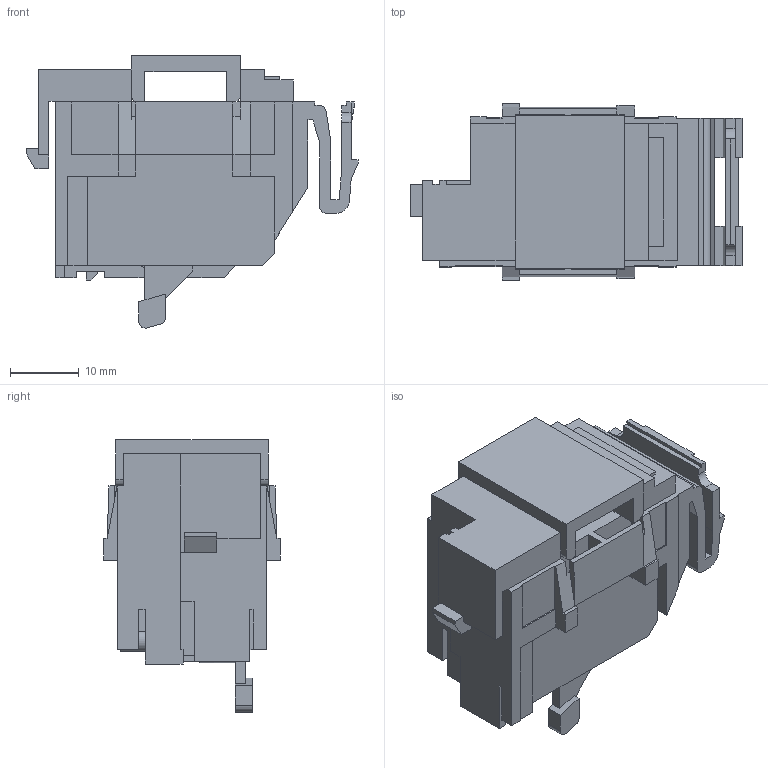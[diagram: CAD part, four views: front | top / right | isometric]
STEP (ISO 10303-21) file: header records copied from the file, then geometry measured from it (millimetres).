
FILE_DESCRIPTION(/* description */ (''),/* implementation_level */ '2;1');
FILE_NAME(/* name */ '2023.11.10.stp',/* time_stamp */ '2023-11-10T14:05:53+08:00',/* author */ (''),/* organization */ (''),/* preprocessor_version */ 'ST-DEVELOPER v16',/* originating_system */ 'SIEMENS PLM Software NX 10.0',/* authorisation */ '');
FILE_SCHEMA (('AUTOMOTIVE_DESIGN { 1 0 10303 214 3 1 1 1 }'));
Length unit declared in the file: millimetre
Products named in the file (1): midi08580DE3vs9g
Bounding box: 48.3 x 25.7 x 39.59 mm (x, y, z)
Volume: 16451.3 mm3; surface area: 9229.8 mm2
Topology: 1 solids, 1 shells, 282 faces, 848 edges, 546 vertices
Faces by surface type: plane 268, cylinder 14
Full cylindrical faces by diameter (mm): 3 x1
Entity records: 9345 total; most frequent: ORIENTED_EDGE 1692, CARTESIAN_POINT 1674, DIRECTION 1443, EDGE_CURVE 846, LINE 815, VECTOR 815, VERTEX_POINT 545, AXIS2_PLACEMENT_3D 314
